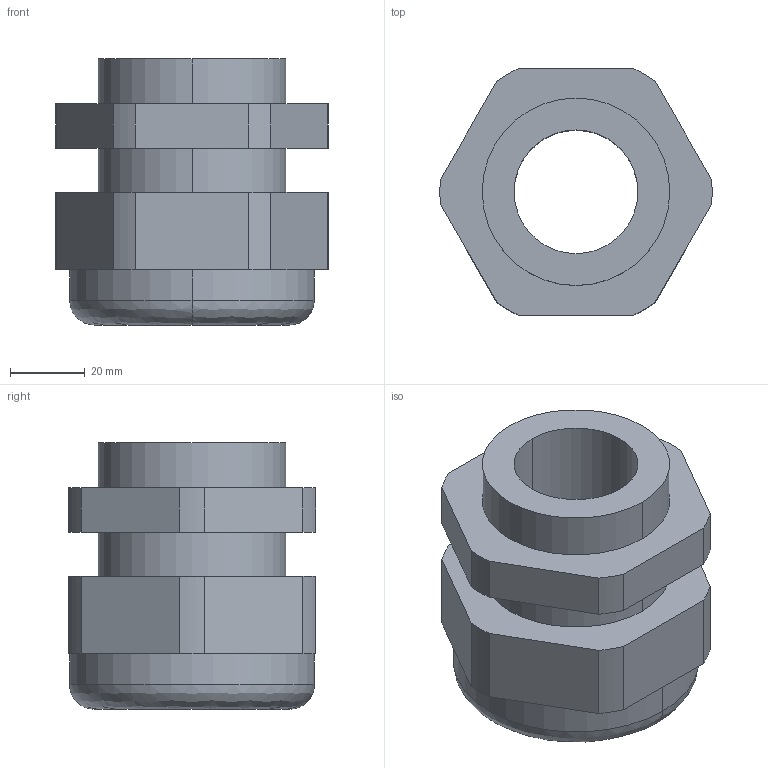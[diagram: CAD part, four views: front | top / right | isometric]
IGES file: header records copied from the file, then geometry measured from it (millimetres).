
Start section:  PTC IGES file: U:\ds\zip\sf\m63.igs
Global section: file name: U:\ds\zip\sf\m63.igs; native system: Pro/ENGINEER by Parametric Technology Corporation; preprocessor: 2003450; author: ds; organization: Unknown; date: 040803.082214; units: millimetre
Bounding box: 72.56 x 66 x 71 mm (x, y, z)
Surface area: 30057.3 mm2 (no closed solid volume)
Topology: 0 solids, 0 shells, 40 faces, 200 edges, 200 vertices
Faces by surface type: revolution 22, bspline 18
